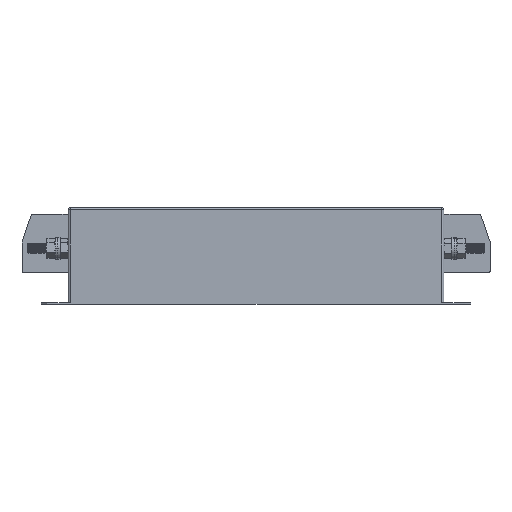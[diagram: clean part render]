
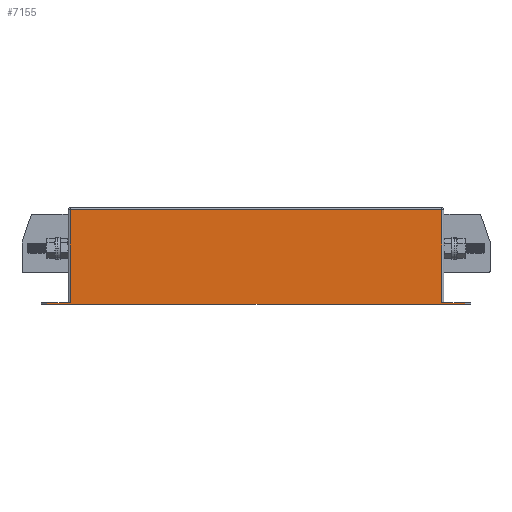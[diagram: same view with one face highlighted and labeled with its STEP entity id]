
A CAD part, top view. The second image highlights one B-rep face of the part: STEP entity #7155.
In plain terms, the highlighted planar face has unit normal (0, 0, 1).
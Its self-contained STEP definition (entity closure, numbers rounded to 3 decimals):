
#101 = VECTOR ( 'NONE', #3830, 1000. ) ;
#580 = EDGE_CURVE ( 'NONE', #3811, #6473, #6882, .T. ) ;
#589 = CARTESIAN_POINT ( 'NONE',  ( 373., 88., 170. ) ) ;
#659 = ORIENTED_EDGE ( 'NONE', *, *, #580, .F. ) ;
#739 = DIRECTION ( 'NONE',  ( 0., -1., 0. ) ) ;
#1191 = CARTESIAN_POINT ( 'NONE',  ( 5., 0., 170. ) ) ;
#1198 = VECTOR ( 'NONE', #3027, 1000. ) ;
#1362 = DIRECTION ( 'NONE',  ( 0., -1., 0. ) ) ;
#1593 = LINE ( 'NONE', #4841, #7839 ) ;
#1603 = ORIENTED_EDGE ( 'NONE', *, *, #5367, .T. ) ;
#1635 = VERTEX_POINT ( 'NONE', #1191 ) ;
#2021 = CARTESIAN_POINT ( 'NONE',  ( 373., 1.5, 170. ) ) ;
#2103 = VECTOR ( 'NONE', #1362, 1000. ) ;
#2217 = CARTESIAN_POINT ( 'NONE',  ( 395., 1.5, 170. ) ) ;
#2305 = CARTESIAN_POINT ( 'NONE',  ( 395., 1.5, 170. ) ) ;
#2348 = VERTEX_POINT ( 'NONE', #589 ) ;
#2611 = EDGE_CURVE ( 'NONE', #1635, #4649, #1593, .T. ) ;
#2887 = LINE ( 'NONE', #2305, #1198 ) ;
#2904 = AXIS2_PLACEMENT_3D ( 'NONE', #10045, #10011, #2990 ) ;
#2964 = EDGE_CURVE ( 'NONE', #9452, #4541, #7459, .T. ) ;
#2990 = DIRECTION ( 'NONE',  ( -1., 0., 0. ) ) ;
#3027 = DIRECTION ( 'NONE',  ( 0., 1., 0. ) ) ;
#3138 = VECTOR ( 'NONE', #3738, 1000. ) ;
#3264 = ORIENTED_EDGE ( 'NONE', *, *, #9478, .T. ) ;
#3319 = ORIENTED_EDGE ( 'NONE', *, *, #2611, .T. ) ;
#3503 = FACE_OUTER_BOUND ( 'NONE', #6293, .T. ) ;
#3581 = CARTESIAN_POINT ( 'NONE',  ( 395., 0., 170. ) ) ;
#3738 = DIRECTION ( 'NONE',  ( -1., 0., 0. ) ) ;
#3811 = VERTEX_POINT ( 'NONE', #10019 ) ;
#3830 = DIRECTION ( 'NONE',  ( 1., 0., 0. ) ) ;
#3903 = VECTOR ( 'NONE', #4440, 1000. ) ;
#4038 = ORIENTED_EDGE ( 'NONE', *, *, #9145, .T. ) ;
#4201 = LINE ( 'NONE', #9151, #2103 ) ;
#4218 = EDGE_CURVE ( 'NONE', #2348, #9608, #7923, .T. ) ;
#4249 = CARTESIAN_POINT ( 'NONE',  ( 5., 1.5, 170. ) ) ;
#4312 = EDGE_CURVE ( 'NONE', #4649, #6473, #2887, .T. ) ;
#4440 = DIRECTION ( 'NONE',  ( 0., 1., 0. ) ) ;
#4473 = VECTOR ( 'NONE', #739, 1000. ) ;
#4541 = VERTEX_POINT ( 'NONE', #8797 ) ;
#4649 = VERTEX_POINT ( 'NONE', #3581 ) ;
#4841 = CARTESIAN_POINT ( 'NONE',  ( 0., 0., 170. ) ) ;
#5367 = EDGE_CURVE ( 'NONE', #3811, #2348, #5732, .T. ) ;
#5385 = PLANE ( 'NONE',  #2904 ) ;
#5643 = DIRECTION ( 'NONE',  ( 1., 0., 0. ) ) ;
#5732 = LINE ( 'NONE', #2021, #3903 ) ;
#6019 = ORIENTED_EDGE ( 'NONE', *, *, #4312, .T. ) ;
#6216 = CARTESIAN_POINT ( 'NONE',  ( 0., 1.5, 170. ) ) ;
#6293 = EDGE_LOOP ( 'NONE', ( #3319, #6019, #659, #1603, #7274, #4038, #7234, #3264 ) ) ;
#6354 = CARTESIAN_POINT ( 'NONE',  ( 0., 1.5, 170. ) ) ;
#6473 = VERTEX_POINT ( 'NONE', #2217 ) ;
#6882 = LINE ( 'NONE', #6354, #8701 ) ;
#7034 = CARTESIAN_POINT ( 'NONE',  ( 27., 1.5, 170. ) ) ;
#7155 = ADVANCED_FACE ( 'NONE', ( #3503 ), #5385, .F. ) ;
#7234 = ORIENTED_EDGE ( 'NONE', *, *, #2964, .F. ) ;
#7274 = ORIENTED_EDGE ( 'NONE', *, *, #4218, .T. ) ;
#7409 = CARTESIAN_POINT ( 'NONE',  ( 25., 88., 170. ) ) ;
#7459 = LINE ( 'NONE', #6216, #101 ) ;
#7839 = VECTOR ( 'NONE', #5643, 1000. ) ;
#7923 = LINE ( 'NONE', #7409, #3138 ) ;
#8609 = LINE ( 'NONE', #7034, #4473 ) ;
#8701 = VECTOR ( 'NONE', #8714, 1000. ) ;
#8714 = DIRECTION ( 'NONE',  ( 1., 0., 0. ) ) ;
#8797 = CARTESIAN_POINT ( 'NONE',  ( 27., 1.5, 170. ) ) ;
#9145 = EDGE_CURVE ( 'NONE', #9608, #4541, #8609, .T. ) ;
#9151 = CARTESIAN_POINT ( 'NONE',  ( 5., 1.5, 170. ) ) ;
#9452 = VERTEX_POINT ( 'NONE', #4249 ) ;
#9478 = EDGE_CURVE ( 'NONE', #9452, #1635, #4201, .T. ) ;
#9608 = VERTEX_POINT ( 'NONE', #9837 ) ;
#9837 = CARTESIAN_POINT ( 'NONE',  ( 27., 88., 170. ) ) ;
#10011 = DIRECTION ( 'NONE',  ( 0., 0., -1. ) ) ;
#10019 = CARTESIAN_POINT ( 'NONE',  ( 373., 1.5, 170. ) ) ;
#10045 = CARTESIAN_POINT ( 'NONE',  ( 0., 1.5, 170. ) ) ;
